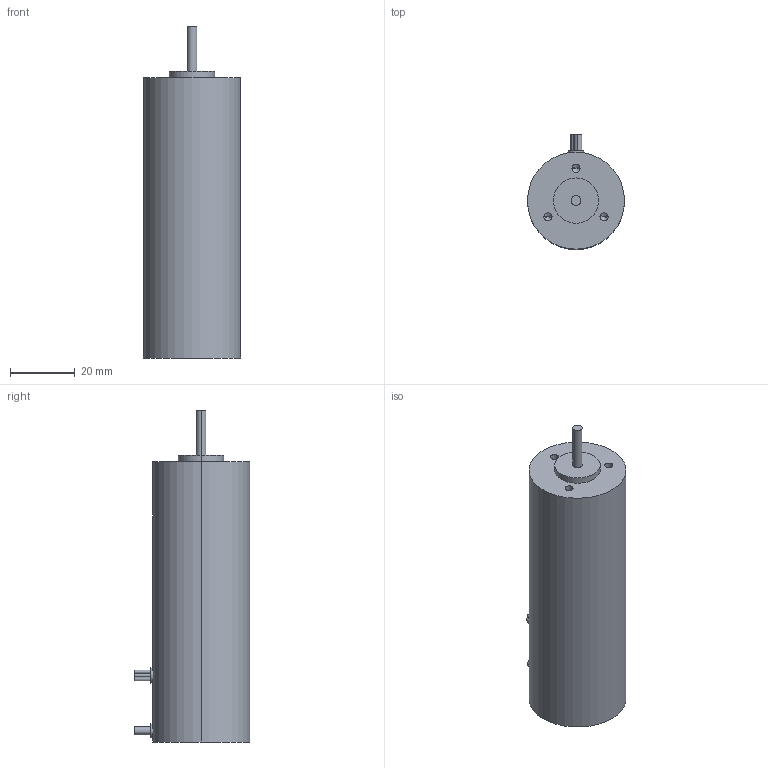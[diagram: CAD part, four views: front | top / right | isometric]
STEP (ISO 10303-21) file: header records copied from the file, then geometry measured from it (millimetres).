
FILE_DESCRIPTION (( 'STEP AP214' ), '1' );
FILE_NAME ('EA-3087.STEP', '2024-10-25T10:44:52', ( '' ), ( '' ), 'SwSTEP 2.0', 'SolidWorks 2024', '' );
FILE_SCHEMA (( 'AUTOMOTIVE_DESIGN' ));
Length unit declared in the file: millimetre
Products named in the file (1): EA-3087
Bounding box: 30 x 35.6 x 102.6 mm (x, y, z)
Volume: 61624.8 mm3; surface area: 10060 mm2
Topology: 1 solids, 1 shells, 43 faces, 90 edges, 55 vertices
Faces by surface type: cylinder 26, plane 11, cone 6
Entity records: 1253 total; most frequent: CARTESIAN_POINT 299, DIRECTION 216, ORIENTED_EDGE 168, AXIS2_PLACEMENT_3D 92, EDGE_CURVE 84, EDGE_LOOP 55, VERTEX_POINT 55, CIRCLE 48
